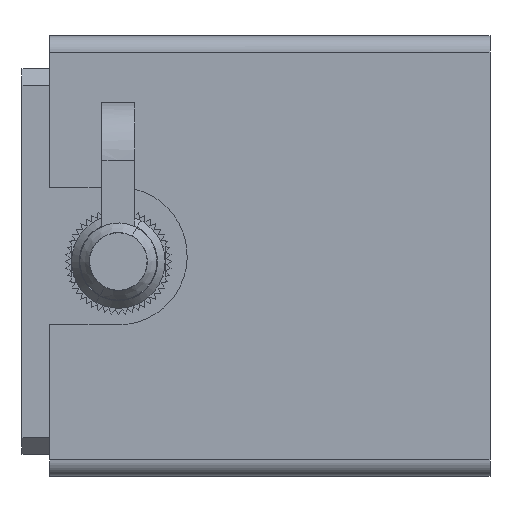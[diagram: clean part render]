
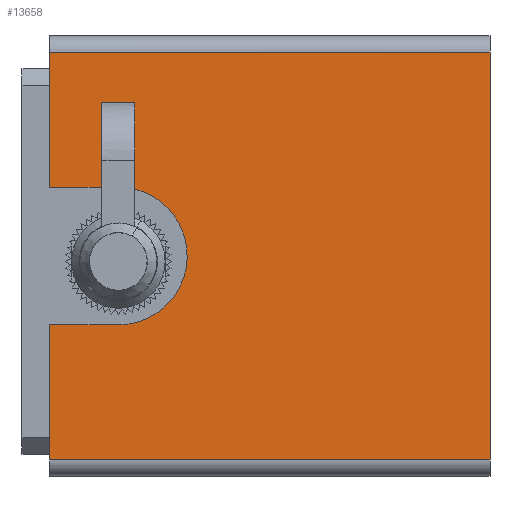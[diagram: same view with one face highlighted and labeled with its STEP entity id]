
A CAD part, front view. The second image highlights one B-rep face of the part: STEP entity #13658.
In plain terms, the highlighted planar face has unit normal (0, -1, 0).
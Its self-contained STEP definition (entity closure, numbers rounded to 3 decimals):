
#12761=CARTESIAN_POINT('Vertex',(-30.,-6.,23.5)) ;
#12865=CARTESIAN_POINT('Vertex',(-30.,-6.,-1.)) ;
#12868=CARTESIAN_POINT('Line Origine',(-30.,-6.,11.25)) ;
#12941=CARTESIAN_POINT('Vertex',(50.,-6.,73.)) ;
#12944=CARTESIAN_POINT('Line Origine',(50.,-6.,36.)) ;
#12948=CARTESIAN_POINT('Vertex',(50.,-6.,-1.)) ;
#13584=CARTESIAN_POINT('Axis2P3D Location',(-30.,-6.,-4.)) ;
#13589=CARTESIAN_POINT('Line Origine',(-23.75,-6.,48.5)) ;
#13593=CARTESIAN_POINT('Vertex',(-17.5,-6.,48.5)) ;
#13595=CARTESIAN_POINT('Vertex',(-30.,-6.,48.5)) ;
#13599=CARTESIAN_POINT('Control Point',(-17.5,-6.,48.5)) ;
#13600=CARTESIAN_POINT('Control Point',(-16.288,-6.,48.5)) ;
#13601=CARTESIAN_POINT('Control Point',(-15.076,-6.,48.353)) ;
#13602=CARTESIAN_POINT('Control Point',(-13.886,-6.,48.059)) ;
#13603=CARTESIAN_POINT('Control Point',(-11.604,-6.,47.189)) ;
#13604=CARTESIAN_POINT('Control Point',(-9.596,-6.,45.798)) ;
#13605=CARTESIAN_POINT('Control Point',(-8.681,-6.,44.984)) ;
#13606=CARTESIAN_POINT('Control Point',(-7.068,-6.,43.15)) ;
#13607=CARTESIAN_POINT('Control Point',(-5.94,-6.,40.984)) ;
#13608=CARTESIAN_POINT('Control Point',(-5.51,-6.,39.837)) ;
#13609=CARTESIAN_POINT('Control Point',(-4.938,-6.,37.463)) ;
#13610=CARTESIAN_POINT('Control Point',(-4.949,-6.,35.02)) ;
#13611=CARTESIAN_POINT('Control Point',(-5.104,-6.,33.805)) ;
#13612=CARTESIAN_POINT('Control Point',(-5.705,-6.,31.438)) ;
#13613=CARTESIAN_POINT('Control Point',(-6.853,-6.,29.283)) ;
#13614=CARTESIAN_POINT('Control Point',(-7.557,-6.,28.28)) ;
#13615=CARTESIAN_POINT('Control Point',(-9.191,-6.,26.465)) ;
#13616=CARTESIAN_POINT('Control Point',(-11.212,-6.,25.094)) ;
#13617=CARTESIAN_POINT('Control Point',(-12.302,-6.,24.534)) ;
#13618=CARTESIAN_POINT('Control Point',(-13.996,-6.,23.911)) ;
#13619=CARTESIAN_POINT('Control Point',(-15.764,-6.,23.601)) ;
#13620=CARTESIAN_POINT('Control Point',(-16.341,-6.,23.534)) ;
#13621=CARTESIAN_POINT('Control Point',(-16.92,-6.,23.5)) ;
#13622=CARTESIAN_POINT('Control Point',(-17.5,-6.,23.5)) ;
#13623=CARTESIAN_POINT('Vertex',(-17.5,-6.,23.5)) ;
#13626=CARTESIAN_POINT('Line Origine',(-23.75,-6.,23.5)) ;
#13631=CARTESIAN_POINT('Line Origine',(10.,-6.,-1.)) ;
#13636=CARTESIAN_POINT('Line Origine',(10.,-6.,73.)) ;
#13640=CARTESIAN_POINT('Vertex',(-30.,-6.,73.)) ;
#13643=CARTESIAN_POINT('Line Origine',(-30.,-6.,60.75)) ;
#12869=DIRECTION('Vector Direction',(0.,0.,1.)) ;
#12945=DIRECTION('Vector Direction',(0.,0.,1.)) ;
#13585=DIRECTION('Axis2P3D Direction',(0.,1.,0.)) ;
#13586=DIRECTION('Axis2P3D XDirection',(0.,0.,1.)) ;
#13590=DIRECTION('Vector Direction',(1.,0.,0.)) ;
#13627=DIRECTION('Vector Direction',(1.,0.,0.)) ;
#13632=DIRECTION('Vector Direction',(1.,0.,0.)) ;
#13637=DIRECTION('Vector Direction',(1.,0.,0.)) ;
#13644=DIRECTION('Vector Direction',(0.,0.,1.)) ;
#13587=AXIS2_PLACEMENT_3D('Plane Axis2P3D',#13584,#13585,#13586) ;
#13649=ORIENTED_EDGE('',*,*,#13597,.F.) ;
#13650=ORIENTED_EDGE('',*,*,#13625,.F.) ;
#13651=ORIENTED_EDGE('',*,*,#13630,.F.) ;
#13652=ORIENTED_EDGE('',*,*,#12872,.T.) ;
#13653=ORIENTED_EDGE('',*,*,#13635,.T.) ;
#13654=ORIENTED_EDGE('',*,*,#12950,.F.) ;
#13655=ORIENTED_EDGE('',*,*,#13642,.F.) ;
#13656=ORIENTED_EDGE('',*,*,#13647,.T.) ;
#12870=VECTOR('Line Direction',#12869,1.) ;
#12946=VECTOR('Line Direction',#12945,1.) ;
#13591=VECTOR('Line Direction',#13590,1.) ;
#13628=VECTOR('Line Direction',#13627,1.) ;
#13633=VECTOR('Line Direction',#13632,1.) ;
#13638=VECTOR('Line Direction',#13637,1.) ;
#13645=VECTOR('Line Direction',#13644,1.) ;
#13658=ADVANCED_FACE('',(#13657),#13588,.F.) ;
#13598=B_SPLINE_CURVE_WITH_KNOTS('',5,(#13599,#13600,#13601,#13602,#13603,#13604,#13605,#13606,#13607,#13608,#13609,#13610,#13611,#13612,#13613,#13614,#13615,#13616,#13617,#13618,#13619,#13620,#13621,#13622),.UNSPECIFIED.,.F.,.U.,(6,3,3,3,3,3,3,6),(0.,8.592,17.184,25.776,34.369,42.961,51.553,55.661),.UNSPECIFIED.) ;
#12872=EDGE_CURVE('',#12762,#12866,#12871,.F.) ;
#12950=EDGE_CURVE('',#12942,#12949,#12947,.F.) ;
#13597=EDGE_CURVE('',#13594,#13596,#13592,.F.) ;
#13625=EDGE_CURVE('',#13624,#13594,#13598,.F.) ;
#13630=EDGE_CURVE('',#12762,#13624,#13629,.T.) ;
#13635=EDGE_CURVE('',#12866,#12949,#13634,.T.) ;
#13642=EDGE_CURVE('',#13641,#12942,#13639,.T.) ;
#13647=EDGE_CURVE('',#13641,#13596,#13646,.F.) ;
#13648=EDGE_LOOP('',(#13649,#13650,#13651,#13652,#13653,#13654,#13655,#13656)) ;
#13657=FACE_OUTER_BOUND('',#13648,.T.) ;
#12871=LINE('Line',#12868,#12870) ;
#12947=LINE('Line',#12944,#12946) ;
#13592=LINE('Line',#13589,#13591) ;
#13629=LINE('Line',#13626,#13628) ;
#13634=LINE('Line',#13631,#13633) ;
#13639=LINE('Line',#13636,#13638) ;
#13646=LINE('Line',#13643,#13645) ;
#13588=PLANE('Plane',#13587) ;
#12762=VERTEX_POINT('',#12761) ;
#12866=VERTEX_POINT('',#12865) ;
#12942=VERTEX_POINT('',#12941) ;
#12949=VERTEX_POINT('',#12948) ;
#13594=VERTEX_POINT('',#13593) ;
#13596=VERTEX_POINT('',#13595) ;
#13624=VERTEX_POINT('',#13623) ;
#13641=VERTEX_POINT('',#13640) ;
